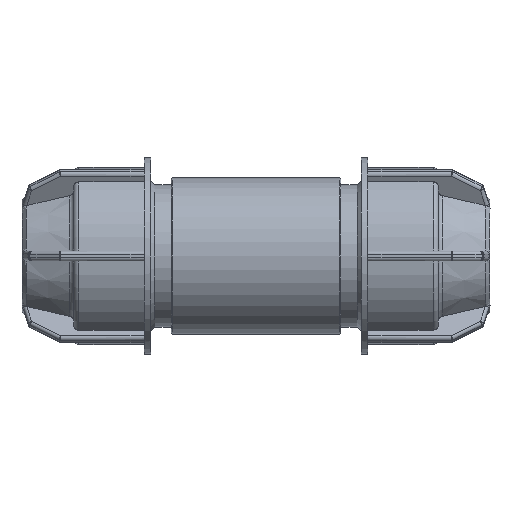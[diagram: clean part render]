
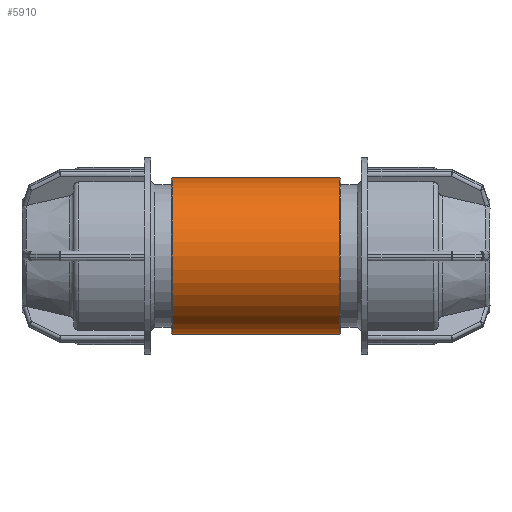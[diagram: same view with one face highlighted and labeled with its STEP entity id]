
A CAD part, front view. The second image highlights one B-rep face of the part: STEP entity #5910.
In plain terms, the highlighted cylindrical face has radius 17.875 mm (diameter 35.75 mm), a full revolution.
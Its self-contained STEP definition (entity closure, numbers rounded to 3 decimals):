
#837=B_SPLINE_CURVE_WITH_KNOTS('',3,(#8988,#8989,#8990,#8991,#8992,#8993,
#8994,#8995,#8996,#8997,#8998,#8999,#9000,#9001,#9002,#9003,#9004,#9005,
#9006,#9007,#9008,#9009,#9010,#9011,#9012,#9013,#9014,#9015,#9016,#9017,
#9018,#9019,#9020,#9021),.UNSPECIFIED.,.T.,.F.,(4,2,2,2,2,2,2,2,2,2,2,2,
2,2,2,2,4),(0.,0.322,0.643,0.965,1.286,
1.607,1.928,2.249,2.571,2.893,
3.215,3.536,3.857,4.178,4.499,
4.821,5.142),.UNSPECIFIED.);
#1019=CYLINDRICAL_SURFACE('',#6329,17.875);
#1339=FACE_BOUND('',#1800,.T.);
#1340=FACE_BOUND('',#1801,.T.);
#1383=FACE_OUTER_BOUND('',#1799,.T.);
#1799=EDGE_LOOP('',(#4064));
#1800=EDGE_LOOP('',(#4065));
#1801=EDGE_LOOP('',(#4066));
#2254=CIRCLE('',#6326,17.875);
#2256=CIRCLE('',#6330,17.875);
#2603=VERTEX_POINT('',#8979);
#2605=VERTEX_POINT('',#8985);
#2606=VERTEX_POINT('',#8987);
#3146=EDGE_CURVE('',#2603,#2603,#2254,.T.);
#3148=EDGE_CURVE('',#2605,#2605,#2256,.T.);
#3149=EDGE_CURVE('',#2606,#2606,#837,.T.);
#4064=ORIENTED_EDGE('',*,*,#3148,.F.);
#4065=ORIENTED_EDGE('',*,*,#3149,.F.);
#4066=ORIENTED_EDGE('',*,*,#3146,.F.);
#5910=ADVANCED_FACE('',(#1383,#1339,#1340),#1019,.T.);
#6326=AXIS2_PLACEMENT_3D('',#8980,#7093,#7094);
#6329=AXIS2_PLACEMENT_3D('',#8984,#7099,#7100);
#6330=AXIS2_PLACEMENT_3D('',#8986,#7101,#7102);
#7093=DIRECTION('center_axis',(-1.,0.,0.));
#7094=DIRECTION('ref_axis',(0.,-1.,0.));
#7099=DIRECTION('center_axis',(1.,0.,0.));
#7100=DIRECTION('ref_axis',(0.,1.,0.));
#7101=DIRECTION('center_axis',(1.,0.,0.));
#7102=DIRECTION('ref_axis',(0.,-1.,0.));
#8979=CARTESIAN_POINT('',(-19.15,17.875,0.));
#8980=CARTESIAN_POINT('Origin',(-19.15,0.,0.));
#8984=CARTESIAN_POINT('Origin',(9.7,0.,0.));
#8985=CARTESIAN_POINT('',(19.15,17.875,0.));
#8986=CARTESIAN_POINT('Origin',(19.15,0.,0.));
#8987=CARTESIAN_POINT('',(0.,15.787,-8.384));
#8988=CARTESIAN_POINT('Ctrl Pts',(0.,15.787,
8.384));
#8989=CARTESIAN_POINT('Ctrl Pts',(1.072,15.787,8.384));
#8990=CARTESIAN_POINT('Ctrl Pts',(2.202,15.908,8.166));
#8991=CARTESIAN_POINT('Ctrl Pts',(4.261,16.321,7.306));
#8992=CARTESIAN_POINT('Ctrl Pts',(5.192,16.605,6.664));
#8993=CARTESIAN_POINT('Ctrl Pts',(6.663,17.121,5.194));
#8994=CARTESIAN_POINT('Ctrl Pts',(7.306,17.391,4.262));
#8995=CARTESIAN_POINT('Ctrl Pts',(8.167,17.77,2.201));
#8996=CARTESIAN_POINT('Ctrl Pts',(8.384,17.875,1.07));
#8997=CARTESIAN_POINT('Ctrl Pts',(8.384,17.875,-1.07));
#8998=CARTESIAN_POINT('Ctrl Pts',(8.167,17.77,-2.201));
#8999=CARTESIAN_POINT('Ctrl Pts',(7.306,17.391,-4.262));
#9000=CARTESIAN_POINT('Ctrl Pts',(6.663,17.121,-5.194));
#9001=CARTESIAN_POINT('Ctrl Pts',(5.192,16.605,-6.664));
#9002=CARTESIAN_POINT('Ctrl Pts',(4.261,16.321,-7.306));
#9003=CARTESIAN_POINT('Ctrl Pts',(2.202,15.908,-8.166));
#9004=CARTESIAN_POINT('Ctrl Pts',(1.072,15.787,-8.384));
#9005=CARTESIAN_POINT('Ctrl Pts',(-1.072,15.787,-8.384));
#9006=CARTESIAN_POINT('Ctrl Pts',(-2.202,15.908,-8.166));
#9007=CARTESIAN_POINT('Ctrl Pts',(-4.261,16.321,-7.306));
#9008=CARTESIAN_POINT('Ctrl Pts',(-5.192,16.605,-6.664));
#9009=CARTESIAN_POINT('Ctrl Pts',(-6.663,17.121,-5.194));
#9010=CARTESIAN_POINT('Ctrl Pts',(-7.306,17.391,-4.262));
#9011=CARTESIAN_POINT('Ctrl Pts',(-8.167,17.77,-2.201));
#9012=CARTESIAN_POINT('Ctrl Pts',(-8.384,17.875,-1.07));
#9013=CARTESIAN_POINT('Ctrl Pts',(-8.384,17.875,1.07));
#9014=CARTESIAN_POINT('Ctrl Pts',(-8.167,17.77,2.201));
#9015=CARTESIAN_POINT('Ctrl Pts',(-7.306,17.391,4.262));
#9016=CARTESIAN_POINT('Ctrl Pts',(-6.663,17.121,5.194));
#9017=CARTESIAN_POINT('Ctrl Pts',(-5.192,16.605,6.664));
#9018=CARTESIAN_POINT('Ctrl Pts',(-4.261,16.321,7.306));
#9019=CARTESIAN_POINT('Ctrl Pts',(-2.202,15.908,8.166));
#9020=CARTESIAN_POINT('Ctrl Pts',(-1.072,15.787,8.384));
#9021=CARTESIAN_POINT('Ctrl Pts',(0.,15.787,
8.384));
